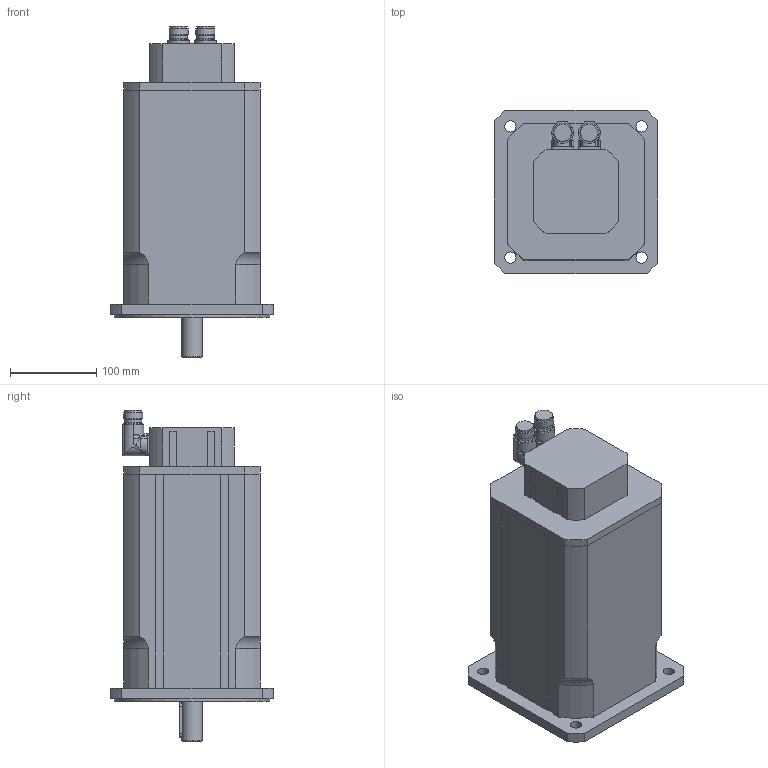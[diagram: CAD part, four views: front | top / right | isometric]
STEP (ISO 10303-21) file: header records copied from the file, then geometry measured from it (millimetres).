
FILE_DESCRIPTION(/* description */ ('Alibre Inc.'),/* implementation_level */ '2;1');
FILE_NAME(/* name */ 'export0',/* time_stamp */ '2011-12-09T11:17:02+01:00',/* author */ (''),/* organization */ (''),/* preprocessor_version */ 'ST-DEVELOPER v12',/* originating_system */ 'Alibre',/* authorisation */ '');
FILE_SCHEMA (('AUTOMOTIVE_DESIGN'));
Length unit declared in the file: millimetre
Products named in the file (6): ID_1; ID_2
Bounding box: 190 x 190 x 384 mm (x, y, z)
Volume: 7125435.2 mm3; surface area: 345822.4 mm2
Topology: 6 solids, 6 shells, 246 faces, 657 edges, 435 vertices
Faces by surface type: cylinder 120, plane 110, cone 10, torus 4, bspline 2
Full cylindrical faces by diameter (mm): 2.7 x8, 6.647 x1, 13 x4, 20 x8, 22 x4, 24 x1, 25 x1, 180 x1
Entity records: 6126 total; most frequent: CARTESIAN_POINT 1638, ORIENTED_EDGE 884, DIRECTION 856, EDGE_CURVE 442, AXIS2_PLACEMENT_3D 349, VERTEX_POINT 310, VECTOR 247, LINE 247
